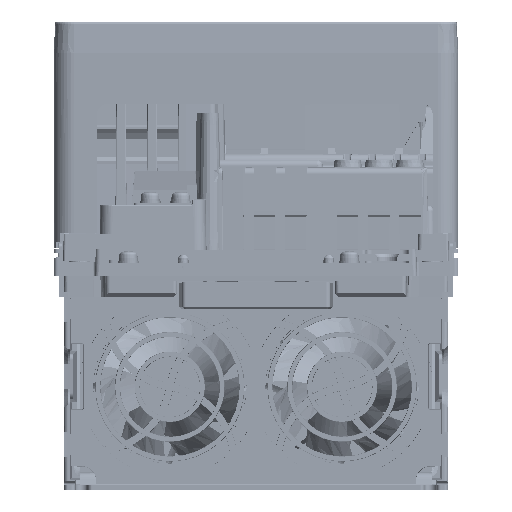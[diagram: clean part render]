
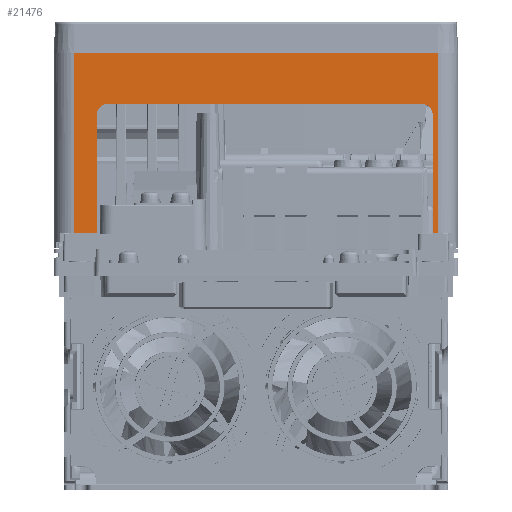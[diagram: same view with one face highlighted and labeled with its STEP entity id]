
A CAD part, front view. The second image highlights one B-rep face of the part: STEP entity #21476.
In plain terms, the highlighted planar face has unit normal (0, -1, 0).
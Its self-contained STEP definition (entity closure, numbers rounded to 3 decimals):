
#5801=CIRCLE('',#184831,5.);
#5802=CIRCLE('',#184832,5.);
#21476=ADVANCED_FACE('',(#36203),#27411,.T.);
#27411=PLANE('',#184833);
#36203=FACE_OUTER_BOUND('',#46143,.T.);
#46143=EDGE_LOOP('',(#129220,#129221,#129222,#129223,#129224,#129225,#129226,
#129227,#129228,#129229));
#62767=LINE('',#362278,#79416);
#62769=LINE('',#362284,#79418);
#62829=LINE('',#362670,#79478);
#62830=LINE('',#362672,#79479);
#62831=LINE('',#362674,#79480);
#62832=LINE('',#362678,#79481);
#62833=LINE('',#362682,#79482);
#62834=LINE('',#362684,#79483);
#79416=VECTOR('',#225137,1.);
#79418=VECTOR('',#225145,1.);
#79478=VECTOR('',#225251,1.);
#79479=VECTOR('',#225254,1.);
#79480=VECTOR('',#225255,1.);
#79481=VECTOR('',#225258,1.);
#79482=VECTOR('',#225261,1.);
#79483=VECTOR('',#225262,1.);
#129220=ORIENTED_EDGE('',*,*,#171858,.F.);
#129221=ORIENTED_EDGE('',*,*,#171954,.T.);
#129222=ORIENTED_EDGE('',*,*,#171955,.T.);
#129223=ORIENTED_EDGE('',*,*,#171956,.T.);
#129224=ORIENTED_EDGE('',*,*,#171957,.F.);
#129225=ORIENTED_EDGE('',*,*,#171958,.T.);
#129226=ORIENTED_EDGE('',*,*,#171959,.F.);
#129227=ORIENTED_EDGE('',*,*,#171960,.F.);
#129228=ORIENTED_EDGE('',*,*,#171961,.T.);
#129229=ORIENTED_EDGE('',*,*,#171861,.F.);
#146752=VERTEX_POINT('',#362275);
#146753=VERTEX_POINT('',#362279);
#146754=VERTEX_POINT('',#362285);
#146828=VERTEX_POINT('',#362669);
#146829=VERTEX_POINT('',#362673);
#146830=VERTEX_POINT('',#362675);
#146831=VERTEX_POINT('',#362677);
#146832=VERTEX_POINT('',#362679);
#146833=VERTEX_POINT('',#362681);
#146834=VERTEX_POINT('',#362683);
#171858=EDGE_CURVE('',#146752,#146753,#62767,.T.);
#171861=EDGE_CURVE('',#146753,#146754,#62769,.T.);
#171954=EDGE_CURVE('',#146752,#146828,#62829,.T.);
#171955=EDGE_CURVE('',#146828,#146829,#62830,.T.);
#171956=EDGE_CURVE('',#146829,#146830,#62831,.T.);
#171957=EDGE_CURVE('',#146831,#146830,#5801,.T.);
#171958=EDGE_CURVE('',#146831,#146832,#62832,.T.);
#171959=EDGE_CURVE('',#146833,#146832,#5802,.T.);
#171960=EDGE_CURVE('',#146834,#146833,#62833,.T.);
#171961=EDGE_CURVE('',#146834,#146754,#62834,.T.);
#184831=AXIS2_PLACEMENT_3D('',#362676,#225256,#225257);
#184832=AXIS2_PLACEMENT_3D('',#362680,#225259,#225260);
#184833=AXIS2_PLACEMENT_3D('',#362685,#225263,#225264);
#225137=DIRECTION('',(1.,0.,0.));
#225145=DIRECTION('',(0.,0.,-1.));
#225251=DIRECTION('',(0.,0.,-1.));
#225254=DIRECTION('',(1.,0.,0.));
#225255=DIRECTION('',(0.,0.,1.));
#225256=DIRECTION('',(0.,-1.,0.));
#225257=DIRECTION('',(0.,0.,1.));
#225258=DIRECTION('',(1.,0.,0.));
#225259=DIRECTION('',(0.,-1.,0.));
#225260=DIRECTION('',(1.,0.,0.));
#225261=DIRECTION('',(0.,0.,1.));
#225262=DIRECTION('',(1.,0.,0.));
#225263=DIRECTION('',(0.,-1.,0.));
#225264=DIRECTION('',(0.,0.,1.));
#362275=CARTESIAN_POINT('',(10.,15.996,210.541));
#362278=CARTESIAN_POINT('',(10.,15.996,210.541));
#362279=CARTESIAN_POINT('',(185.,15.996,210.541));
#362284=CARTESIAN_POINT('',(185.,15.996,210.541));
#362285=CARTESIAN_POINT('',(185.,15.996,124.));
#362669=CARTESIAN_POINT('',(10.,15.996,124.));
#362670=CARTESIAN_POINT('',(10.,15.996,210.541));
#362672=CARTESIAN_POINT('',(10.,15.996,124.));
#362673=CARTESIAN_POINT('',(20.9,15.996,124.));
#362674=CARTESIAN_POINT('',(20.9,15.996,124.));
#362675=CARTESIAN_POINT('',(20.9,15.996,181.));
#362676=CARTESIAN_POINT('',(25.9,15.996,181.));
#362677=CARTESIAN_POINT('',(25.9,15.996,186.));
#362678=CARTESIAN_POINT('',(25.9,15.996,186.));
#362679=CARTESIAN_POINT('',(177.6,15.996,186.));
#362680=CARTESIAN_POINT('',(177.6,15.996,181.));
#362681=CARTESIAN_POINT('',(182.6,15.996,181.));
#362682=CARTESIAN_POINT('',(182.6,15.996,124.));
#362683=CARTESIAN_POINT('',(182.6,15.996,124.));
#362684=CARTESIAN_POINT('',(182.6,15.996,124.));
#362685=CARTESIAN_POINT('',(0.,15.996,210.5));
